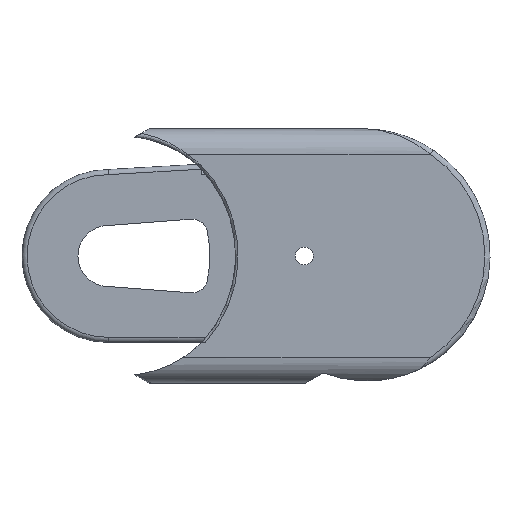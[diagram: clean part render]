
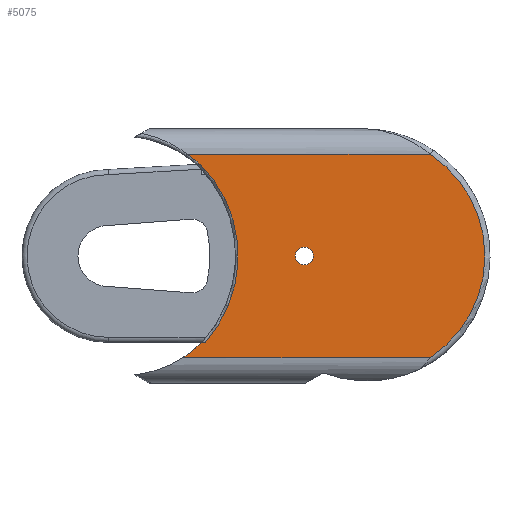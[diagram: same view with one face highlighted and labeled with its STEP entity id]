
A CAD part, left-side view. The second image highlights one B-rep face of the part: STEP entity #5075.
In plain terms, the highlighted planar face has unit normal (-1, 0, 0).
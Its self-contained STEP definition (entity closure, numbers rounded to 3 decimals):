
#3134=CARTESIAN_POINT('',(0.,51.776,5.0));
#3135=VERTEX_POINT('',#3134);
#3146=CARTESIAN_POINT('',(0.,48.069,8.));
#3147=VERTEX_POINT('',#3146);
#3148=CARTESIAN_POINT('',(0.,63.682,23.5));
#3149=DIRECTION('',(1.0,0.,0.));
#3150=DIRECTION('',(0.,-0.113,-0.994));
#3151=AXIS2_PLACEMENT_3D('',#3148,#3149,#3150);
#3152=CIRCLE('',#3151,22.);
#3153=EDGE_CURVE('',#3147,#3135,#3152,.T.);
#3708=CARTESIAN_POINT('',(0.,27.882,26.75));
#3709=VERTEX_POINT('',#3708);
#3710=CARTESIAN_POINT('',(0.,27.882,25.));
#3711=DIRECTION('',(1.0,0.0,0.0));
#3712=DIRECTION('',(0.0,0.0,-1.0));
#3713=AXIS2_PLACEMENT_3D('',#3710,#3711,#3712);
#3714=CIRCLE('',#3713,1.75);
#3715=EDGE_CURVE('',#3709,#3709,#3714,.T.);
#4069=CARTESIAN_POINT('',(0.,50.875,45.));
#4070=VERTEX_POINT('',#4069);
#4099=CARTESIAN_POINT('',(0.,48.429,43.041));
#4100=VERTEX_POINT('',#4099);
#4120=CARTESIAN_POINT('',(0.,63.682,26.5));
#4121=DIRECTION('',(-1.0,0.,0.));
#4122=DIRECTION('',(0.,-0.603,0.798));
#4123=AXIS2_PLACEMENT_3D('',#4120,#4121,#4122);
#4124=CIRCLE('',#4123,22.5);
#4125=EDGE_CURVE('',#4100,#4070,#4124,.T.);
#4155=CARTESIAN_POINT('',(0.,48.364,43.044));
#4156=VERTEX_POINT('',#4155);
#4179=CARTESIAN_POINT('',(0.,48.364,43.044));
#4180=DIRECTION('',(0.0,0.998,-0.058));
#4181=VECTOR('',#4180,0.065);
#4182=LINE('',#4179,#4181);
#4183=EDGE_CURVE('',#4156,#4100,#4182,.T.);
#4203=CARTESIAN_POINT('',(0.,47.375,8.));
#4204=VERTEX_POINT('',#4203);
#4230=CARTESIAN_POINT('',(0.,66.382,25.));
#4231=DIRECTION('',(-1.,0.,0.));
#4232=DIRECTION('',(0.,-1.,0.028));
#4233=AXIS2_PLACEMENT_3D('',#4230,#4231,#4232);
#4234=CIRCLE('',#4233,25.5);
#4235=EDGE_CURVE('',#4204,#4156,#4234,.T.);
#4905=CARTESIAN_POINT('',(0.,3.115,45.));
#4906=VERTEX_POINT('',#4905);
#4952=CARTESIAN_POINT('',(0.,3.115,5.0));
#4953=VERTEX_POINT('',#4952);
#4954=CARTESIAN_POINT('',(0.,16.382,25.));
#4955=DIRECTION('',(1.,0.,0.));
#4956=DIRECTION('',(0.,-0.999,0.039));
#4957=AXIS2_PLACEMENT_3D('',#4954,#4955,#4956);
#4958=CIRCLE('',#4957,24.);
#4959=EDGE_CURVE('',#4906,#4953,#4958,.T.);
#4991=CARTESIAN_POINT('',(0.,3.115,5.0));
#4992=DIRECTION('',(0.0,1.0,0.0));
#4993=VECTOR('',#4992,48.661);
#4994=LINE('',#4991,#4993);
#4995=EDGE_CURVE('',#4953,#3135,#4994,.T.);
#5040=CARTESIAN_POINT('',(0.,50.875,45.));
#5041=DIRECTION('',(0.0,-1.0,0.));
#5042=VECTOR('',#5041,47.76);
#5043=LINE('',#5040,#5042);
#5044=EDGE_CURVE('',#4070,#4906,#5043,.T.);
#5052=CARTESIAN_POINT('',(0.,-8.618,50.));
#5053=DIRECTION('',(-1.0,0.0,0.0));
#5054=DIRECTION('',(0.0,-1.0,0.0));
#5055=AXIS2_PLACEMENT_3D('',#5052,#5053,#5054);
#5056=PLANE('',#5055);
#5057=ORIENTED_EDGE('',*,*,#4125,.F.);
#5058=ORIENTED_EDGE('',*,*,#4183,.F.);
#5059=ORIENTED_EDGE('',*,*,#4235,.F.);
#5060=CARTESIAN_POINT('',(0.,47.375,8.));
#5061=DIRECTION('',(0.0,1.0,0.0));
#5062=VECTOR('',#5061,0.694);
#5063=LINE('',#5060,#5062);
#5064=EDGE_CURVE('',#4204,#3147,#5063,.T.);
#5065=ORIENTED_EDGE('',*,*,#5064,.T.);
#5066=ORIENTED_EDGE('',*,*,#3153,.T.);
#5067=ORIENTED_EDGE('',*,*,#4995,.F.);
#5068=ORIENTED_EDGE('',*,*,#4959,.F.);
#5069=ORIENTED_EDGE('',*,*,#5044,.F.);
#5070=EDGE_LOOP('',(#5057,#5058,#5059,#5065,#5066,#5067,#5068,#5069));
#5071=FACE_OUTER_BOUND('',#5070,.T.);
#5072=ORIENTED_EDGE('',*,*,#3715,.T.);
#5073=EDGE_LOOP('',(#5072));
#5074=FACE_BOUND('',#5073,.T.);
#5075=ADVANCED_FACE('',(#5071,#5074),#5056,.T.);
